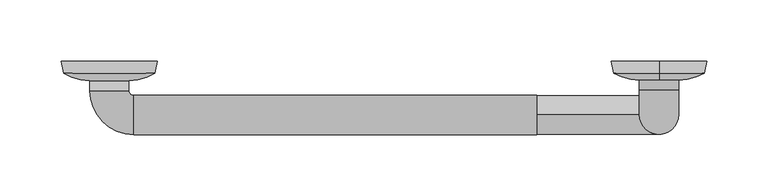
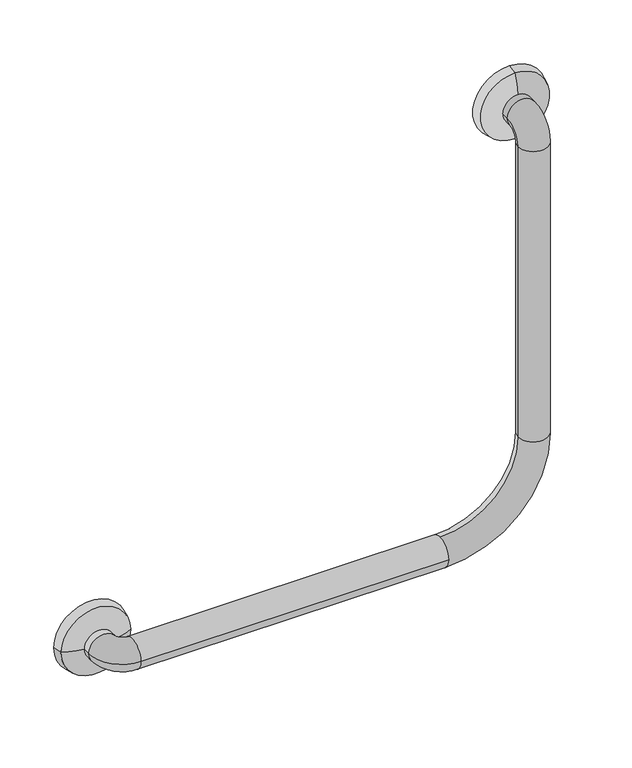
"""IFC4 building model written with IfcOpenShell, lengths in millimetres: proxy geometry, Grab Rail_Metlam_90 Deg_Ambulant : 482w x 60d x 482h (MLR112)."""

from ifc_helpers import new_model, si_unit, point, frame, origin, place, context, project, spatial, polyline, circle_curve, ellipse_curve, trimmed, source, transform, mapped, element, save
from ifc_brep_helpers import plane_surface, cylinder_surface, revolved_surface, advanced_brep


def specialty_equipment_10595252(model_context):
    return source(origin(), model_context, "Body", "AdvancedBrep", [
        advanced_brep(
        [(78.8, 0.0, 784.0), (0.0, 0.0, 784.0), (39.4, 0.0, 784.0), (76.8, -10.0, 784.0), (2.0, -10.0, 784.0), (55.4, -16.0308125, 784.0), (23.4, -16.0308125, 784.0), (55.4, -24.0, 784.0), (50.7137085, -24.0, 772.6862915), (39.4, -24.0, 768.0), (28.0862915, -24.0, 772.6862915), (23.4, -24.0, 784.0), (28.0862915, -24.0, 795.3137085), (39.4, -24.0, 800.0), (50.7137085, -24.0, 795.3137085), (59.4019459, -28.0019459, 784.0), (59.4019459, -60.0019459, 784.0), (389.4, -60.0019459, 784.0), (389.4, -44.0019459, 800.0), (389.4, -28.0019459, 784.0), (389.4, -44.0019459, 768.0), (473.4, -44.0019459, 884.0), (505.4, -44.0019459, 884.0), (505.4, -44.0019459, 1214.0), (505.4, -24.0, 1234.0019459), (473.4, -24.0, 1234.0019459), (473.4, -44.0019459, 1214.0), (473.4, -15.5963355, 1234.0019459), (505.4, -15.5963355, 1234.0019459)],
        [
            (0, 1, circle_curve(frame((39.4, 0.0, 784.0), z_axis=(0.0, 1.0, 0.0), x_axis=(-1.0, 0.0, 0.0)), 39.4)),
            (1, 2),
            (2, 0),
            (1, 0, circle_curve(frame((39.4, 0.0, 784.0), z_axis=(0.0, 1.0, 0.0), x_axis=(-1.0, 0.0, 0.0)), 39.4)),
            (0, 3),
            (3, 4, circle_curve(frame((39.4, -10.0, 784.0), z_axis=(0.0, 1.0, 0.0), x_axis=(-1.0, 0.0, 0.0)), 37.4)),
            (4, 1),
            (4, 3, circle_curve(frame((39.4, -10.0, 784.0), z_axis=(0.0, 1.0, 0.0), x_axis=(-1.0, 0.0, 0.0)), 37.4)),
            (3, 5, circle_curve(frame((52.4887092, 35.2834961, 784.0), z_axis=(0.0, 0.0, -1.0), x_axis=(1.0, 0.0, 0.0)), 51.3968275)),
            (5, 6, circle_curve(frame((39.4, -16.0308125, 784.0), z_axis=(0.0, 1.0, 0.0), x_axis=(-1.0, 0.0, 0.0)), 16.0)),
            (6, 4, circle_curve(frame((26.3112908, 35.2834961, 784.0), z_axis=(0.0, 0.0, -1.0), x_axis=(-1.0, 0.0, 0.0)), 51.3968275)),
            (6, 5, circle_curve(frame((39.4, -16.0308125, 784.0), z_axis=(0.0, 1.0, 0.0), x_axis=(-1.0, 0.0, 0.0)), 16.0)),
            (5, 7),
            (7, 8, circle_curve(frame((39.4, -24.0, 784.0), z_axis=(0.0, 1.0, 0.0), x_axis=(-1.0, 0.0, 0.0)), 16.0)),
            (8, 9, circle_curve(frame((39.4, -24.0, 784.0), z_axis=(0.0, 1.0, 0.0), x_axis=(-1.0, 0.0, 0.0)), 16.0)),
            (9, 10, circle_curve(frame((39.4, -24.0, 784.0), z_axis=(0.0, 1.0, 0.0), x_axis=(-1.0, 0.0, 0.0)), 16.0)),
            (10, 11, circle_curve(frame((39.4, -24.0, 784.0), z_axis=(0.0, 1.0, 0.0), x_axis=(-1.0, 0.0, 0.0)), 16.0)),
            (11, 6),
            (11, 12, circle_curve(frame((39.4, -24.0, 784.0), z_axis=(0.0, 1.0, 0.0), x_axis=(-1.0, 0.0, 0.0)), 16.0)),
            (12, 13, circle_curve(frame((39.4, -24.0, 784.0), z_axis=(0.0, 1.0, 0.0), x_axis=(-1.0, 0.0, 0.0)), 16.0)),
            (13, 14, circle_curve(frame((39.4, -24.0, 784.0), z_axis=(0.0, 1.0, 0.0), x_axis=(-1.0, 0.0, 0.0)), 16.0)),
            (14, 7, circle_curve(frame((39.4, -24.0, 784.0), z_axis=(0.0, 1.0, 0.0), x_axis=(-1.0, 0.0, 0.0)), 16.0)),
            (15, 16, circle_curve(frame((59.4019459, -44.0019459, 784.0), z_axis=(1.0, 0.0, 0.0), x_axis=(0.0, 1.0, 0.0)), 16.0)),
            (16, 17),
            (17, 18, circle_curve(frame((389.4, -44.0019459, 784.0), z_axis=(-1.0, 0.0, 0.0), x_axis=(0.0, 1.0, 0.0)), 16.0)),
            (18, 19, circle_curve(frame((389.4, -44.0019459, 784.0), z_axis=(-1.0, 0.0, 0.0), x_axis=(0.0, 1.0, 0.0)), 16.0)),
            (19, 15),
            (16, 15, circle_curve(frame((59.4019459, -44.0019459, 784.0), z_axis=(1.0, 0.0, 0.0), x_axis=(0.0, 1.0, 0.0)), 16.0)),
            (19, 20, circle_curve(frame((389.4, -44.0019459, 784.0), z_axis=(-1.0, 0.0, 0.0), x_axis=(0.0, 1.0, 0.0)), 16.0)),
            (20, 17, circle_curve(frame((389.4, -44.0019459, 784.0), z_axis=(-1.0, 0.0, 0.0), x_axis=(0.0, 1.0, 0.0)), 16.0)),
            (15, 7, circle_curve(frame((59.4019459, -24.0, 784.0), z_axis=(0.0, 0.0, -1.0), x_axis=(-1.0, 0.0, 0.0)), 4.0019459)),
            (11, 16, circle_curve(frame((59.4019459, -24.0, 784.0), z_axis=(0.0, 0.0, 1.0), x_axis=(-1.0, 0.0, 0.0)), 36.0019459)),
            (21, 18, circle_curve(frame((389.4, -44.0019459, 884.0), z_axis=(0.0, 1.0, 0.0), x_axis=(0.0, 0.0, -1.0)), 84.0)),
            (20, 22, circle_curve(frame((389.4, -44.0019459, 884.0), z_axis=(0.0, -1.0, 0.0), x_axis=(0.0, 0.0, -1.0)), 116.0)),
            (22, 21, circle_curve(frame((489.4, -44.0019459, 884.0), z_axis=(0.0, 0.0, -1.0), x_axis=(-1.0, 0.0, 0.0)), 16.0)),
            (21, 22, circle_curve(frame((489.4, -44.0019459, 884.0), z_axis=(0.0, 0.0, -1.0), x_axis=(-1.0, 0.0, 0.0)), 16.0)),
            (23, 24, circle_curve(frame((505.4, -24.0, 1214.0), z_axis=(-1.0, 0.0, 0.0), x_axis=(0.0, 0.0, 1.0)), 20.0019459)),
            (24, 25, circle_curve(frame((489.4, -24.0, 1234.0019459), z_axis=(0.0, -1.0, 0.0), x_axis=(1.0, 0.0, 0.0)), 16.0)),
            (25, 26, circle_curve(frame((473.4, -24.0, 1214.0), z_axis=(1.0, 0.0, 0.0), x_axis=(0.0, 0.0, 1.0)), 20.0019459)),
            (26, 23, circle_curve(frame((489.4, -44.0019459, 1214.0), z_axis=(0.0, 0.0, 1.0), x_axis=(1.0, 0.0, 0.0)), 16.0)),
            (23, 26, circle_curve(frame((489.4, -44.0019459, 1214.0), z_axis=(0.0, 0.0, 1.0), x_axis=(1.0, 0.0, 0.0)), 16.0)),
            (25, 24, circle_curve(frame((489.4, -24.0, 1234.0019459), z_axis=(0.0, -1.0, 0.0), x_axis=(1.0, 0.0, 0.0)), 16.0)),
            (26, 21),
            (22, 23),
            (27, 28, circle_curve(frame((489.4, -15.5963355, 1234.0019459), z_axis=(0.0, 1.0, 0.0), x_axis=(1.0, 0.0, 0.0)), 16.0)),
            (28, 27, circle_curve(frame((489.4, -15.5963355, 1234.0019459), z_axis=(0.0, 1.0, 0.0), x_axis=(1.0, 0.0, 0.0)), 16.0)),
            (24, 28),
            (27, 25),
        ],
        [
            plane_surface(frame((39.4, 0.0, 784.0), z_axis=(0.0, 1.0, 0.0), x_axis=(-1.0, 0.0, 0.0))),
            revolved_surface(polyline([(0.0, 0.0, 784.0), (2.0, -10.0, 784.0)]), (39.4, -10.0, 784.0), (0.0, -1.0, 0.0)),
            revolved_surface(trimmed(ellipse_curve(frame((26.3112908, 35.2834961, 784.0), z_axis=(0.0, 0.0, 1.0), x_axis=(-1.0, 0.0, 0.0)), 51.3968275, 51.3968275), [point((2.0, -10.0, 784.0))], [point((23.4, -16.0308125, 784.0))], True, "CARTESIAN"), (39.4, -10.0, 784.0), (0.0, -1.0, 0.0)),
            cylinder_surface(frame((39.4, -10.0, 784.0), z_axis=(0.0, -1.0, 0.0), x_axis=(-1.0, 0.0, 0.0)), 16.0),
            cylinder_surface(frame((59.4019459, -44.0019459, 784.0), z_axis=(-1.0, 0.0, 0.0), x_axis=(0.0, 1.0, 0.0)), 16.0),
            revolved_surface(trimmed(ellipse_curve(frame((39.4, -24.0, 784.0), z_axis=(0.0, 1.0, 0.0), x_axis=(1.0, 0.0, 0.0)), 16.0, 16.0), [point((23.4, -24.0, 784.0))], [point((55.4, -24.0, 784.0))], True, "CARTESIAN"), (59.4019459, -24.0, 784.0), (0.0, 0.0, 1.0)),
            revolved_surface(trimmed(ellipse_curve(frame((39.4, -24.0, 784.0), z_axis=(0.0, 1.0, 0.0), x_axis=(1.0, 0.0, 0.0)), 16.0, 16.0), [point((55.4, -24.0, 784.0))], [point((23.4, -24.0, 784.0))], True, "CARTESIAN"), (59.4019459, -24.0, 784.0), (0.0, 0.0, 1.0)),
            revolved_surface(trimmed(ellipse_curve(frame((389.4, -44.0019459, 784.0), z_axis=(-1.0, 0.0, 0.0), x_axis=(0.0, 0.0, 1.0)), 16.0, 16.0), [point((389.4, -44.0019459, 768.0))], [point((389.4, -44.0019459, 800.0))], True, "CARTESIAN"), (389.4, 0.0, 884.0), (0.0, -1.0, 0.0)),
            revolved_surface(trimmed(ellipse_curve(frame((389.4, -44.0019459, 784.0), z_axis=(-1.0, 0.0, 0.0), x_axis=(0.0, 0.0, 1.0)), 16.0, 16.0), [point((389.4, -44.0019459, 800.0))], [point((389.4, -44.0019459, 768.0))], True, "CARTESIAN"), (389.4, 0.0, 884.0), (0.0, -1.0, 0.0)),
            revolved_surface(trimmed(ellipse_curve(frame((489.4, -24.0, 1234.0019459), z_axis=(0.0, 1.0, 0.0), x_axis=(1.0, 0.0, 0.0)), 16.0, 16.0), [point((473.4, -24.0, 1234.0019459))], [point((505.4, -24.0, 1234.0019459))], True, "CARTESIAN"), (489.4, -24.0, 1214.0), (1.0, 0.0, 0.0)),
            revolved_surface(trimmed(ellipse_curve(frame((489.4, -24.0, 1234.0019459), z_axis=(0.0, 1.0, 0.0), x_axis=(1.0, 0.0, 0.0)), 16.0, 16.0), [point((505.4, -24.0, 1234.0019459))], [point((473.4, -24.0, 1234.0019459))], True, "CARTESIAN"), (489.4, -24.0, 1214.0), (1.0, 0.0, 0.0)),
            cylinder_surface(frame((489.4, -44.0019459, 1214.0), z_axis=(0.0, 0.0, 1.0), x_axis=(1.0, 0.0, 0.0)), 16.0),
            plane_surface(frame((489.4, -15.5963355, 1234.0), z_axis=(0.0, 1.0, 0.0), x_axis=(1.0, 0.0, 0.0))),
            cylinder_surface(frame((489.4, -15.5963355, 1234.0019459), z_axis=(0.0, 1.0, 0.0), x_axis=(1.0, 0.0, 0.0)), 16.0),
        ],
        [
            (0, [[1, 2, 3]]),
            (0, [[-2, 4, -3]]),
            (1, [[-1, 5, 6, 7]]),
            (1, [[-4, -7, 8, -5]]),
            (2, [[-6, 9, 10, 11]]),
            (2, [[-8, -11, 12, -9]]),
            (3, [[-10, 13, 14, 15, 16, 17, 18]]),
            (3, [[-12, -18, 19, 20, 21, 22, -13]]),
            (4, [[23, 24, 25, 26, 27]]),
            (4, [[-24, 28, -27, 29, 30]]),
            (5, [[-23, 31, -22, -21, -20, -19, 32]]),
            (6, [[-28, -32, -17, -16, -15, -14, -31]]),
            (7, [[33, -25, -30, 34, 35]]),
            (8, [[-33, 36, -34, -29, -26]]),
            (9, [[37, 38, 39, 40]]),
            (10, [[-37, 41, -39, 42]]),
            (11, [[-40, 43, -35, 44]]),
            (11, [[-41, -44, -36, -43]]),
            (12, [[45, 46]]),
            (13, [[-38, 47, -45, 48]]),
            (13, [[-42, -48, -46, -47]]),
        ],
    ),
        advanced_brep(
        [(489.4, 0.0, 1194.6), (489.4, 0.0, 1273.4), (489.4, 0.0, 1234.0), (489.4, -10.0, 1196.6), (489.4, -10.0, 1271.4), (489.4, -15.5963355, 1217.9980541), (489.4, -15.5963355, 1250.0019459), (489.4, -15.5963355, 1234.0)],
        [
            (0, 1, circle_curve(frame((489.4, 0.0, 1234.0), z_axis=(0.0, 1.0, 0.0), x_axis=(0.0, 0.0, 1.0)), 39.4)),
            (1, 2),
            (2, 0),
            (1, 0, circle_curve(frame((489.4, 0.0, 1234.0), z_axis=(0.0, 1.0, 0.0), x_axis=(0.0, 0.0, 1.0)), 39.4)),
            (3, 4, circle_curve(frame((489.4, -10.0, 1234.0), z_axis=(0.0, 1.0, 0.0), x_axis=(0.0, 0.0, 1.0)), 37.4)),
            (4, 1),
            (0, 3),
            (4, 3, circle_curve(frame((489.4, -10.0, 1234.0), z_axis=(0.0, 1.0, 0.0), x_axis=(0.0, 0.0, 1.0)), 37.4)),
            (5, 6, circle_curve(frame((489.4, -15.5963355, 1234.0), z_axis=(0.0, 1.0, 0.0), x_axis=(0.0, 0.0, 1.0)), 16.0019459)),
            (6, 4, circle_curve(frame((489.4, 31.5163025, 1249.1111975), z_axis=(-1.0, 0.0, 0.0), x_axis=(0.0, 1.0, 0.0)), 47.1210578)),
            (3, 5, circle_curve(frame((489.4, 31.5163025, 1218.8888025), z_axis=(-1.0, 0.0, 0.0), x_axis=(0.0, 1.0, 0.0)), 47.1210578)),
            (6, 5, circle_curve(frame((489.4, -15.5963355, 1234.0), z_axis=(0.0, 1.0, 0.0), x_axis=(0.0, 0.0, 1.0)), 16.0019459)),
            (7, 6),
            (5, 7),
        ],
        [
            plane_surface(frame((489.4, 0.0, 1234.0), z_axis=(0.0, 1.0, 0.0), x_axis=(0.0, 0.0, 1.0))),
            revolved_surface(polyline([(489.4, 0.0, 1273.4), (489.4, -10.0, 1271.4)]), (489.4, -87.7836126, 1234.0), (0.0, -1.0, 0.0)),
            revolved_surface(trimmed(ellipse_curve(frame((489.4, 31.5163025, 1249.1111975), z_axis=(1.0, 0.0, 0.0), x_axis=(0.0, 1.0, 0.0)), 47.1210578, 47.1210578), [point((489.4, -10.0, 1271.4))], [point((489.4, -15.5963355, 1250.0019459))], True, "CARTESIAN"), (489.4, -87.7836126, 1234.0), (0.0, -1.0, 0.0)),
            plane_surface(frame((489.4, -15.5963355, 1234.0), z_axis=(0.0, -1.0, 0.0), x_axis=(0.0, 0.0, 1.0))),
        ],
        [
            (0, [[1, 2, 3]]),
            (0, [[4, -3, -2]]),
            (1, [[5, 6, -1, 7]]),
            (1, [[8, -7, -4, -6]]),
            (2, [[9, 10, -5, 11]]),
            (2, [[12, -11, -8, -10]]),
            (3, [[13, -9, 14]]),
            (3, [[-14, -12, -13]]),
        ],
    ),
    ])


if __name__ == "__main__":
    model = new_model("IFC4")
    model_context = context("Model", 3, world=origin())
    ifc_project = project(units=[si_unit("LENGTHUNIT", "METRE", prefix="MILLI")], contexts=[model_context])
    site = spatial("IfcSite", under=ifc_project)
    building = spatial("IfcBuilding", under=site)
    placement = place(None, origin())
    specialty_equipment_shape = specialty_equipment_10595252(model_context)
    element("IfcBuildingElementProxy", 1, Name="Grab Rail_Metlam_90 Deg_Ambulant : 482w x 60d x 482h (MLR112)", ObjectType="Grab Rail_Metlam_90 Deg_Ambulant : 482w x 60d x 482h (MLR112)", at=placement, inside=building, context=model_context, shape_type="MappedRepresentation", body=[
        mapped(specialty_equipment_shape, transform((0.0, 0.0, 0.0), x_axis=(1.0, 0.0, 0.0), y_axis=(0.0, 1.0, 0.0), z_axis=(0.0, 0.0, 1.0))),
    ])
    save(model, "model.ifc")
